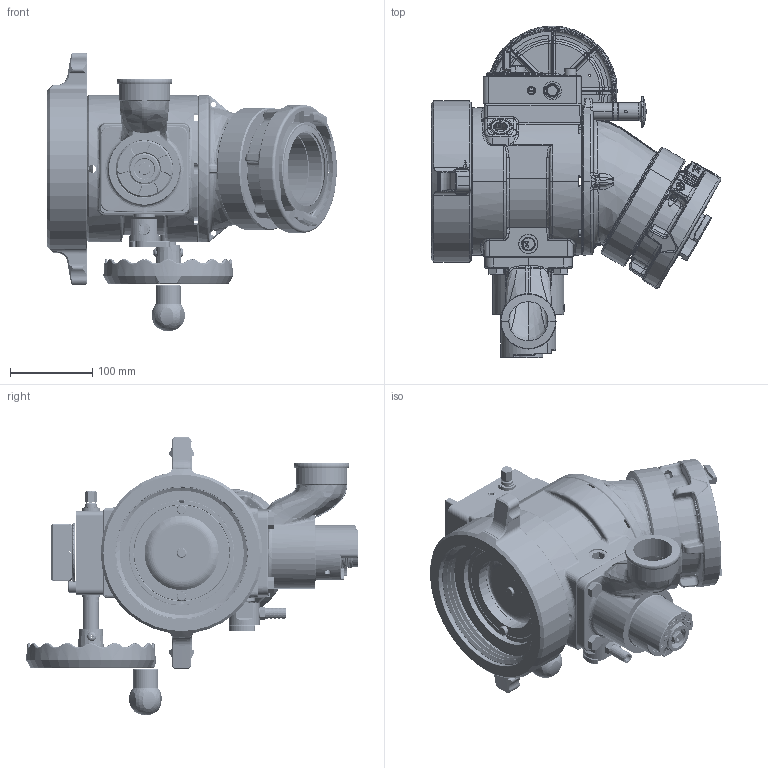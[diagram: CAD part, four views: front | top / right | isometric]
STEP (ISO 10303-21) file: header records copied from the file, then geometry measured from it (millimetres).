
FILE_DESCRIPTION (( 'STEP AP203' ), '1' );
FILE_NAME ('AB1SP-NT.STEP', '2015-02-09T20:02:24', ( '' ), ( '' ), 'SwSTEP 2.0', 'SolidWorks 2015', '' );
FILE_SCHEMA (( 'CONFIG_CONTROL_DESIGN' ));
Length unit declared in the file: inch
Products named in the file (1): AB1SP-NT
Bounding box: 352.97 x 404.47 x 339.79 mm (x, y, z)
Surface area: 656221.9 mm2 (no closed solid volume)
Topology: 0 solids, 374 shells, 2736 faces, 18448 edges, 15827 vertices
Faces by surface type: plane 943, bspline 667, cylinder 568, cone 300, torus 224, sphere 34
Entity records: 281796 total; most frequent: CARTESIAN_POINT 159828, ORIENTED_EDGE 23649, DIRECTION 19266, EDGE_CURVE 18406, VERTEX_POINT 15822, LINE 9752, VECTOR 9752, B_SPLINE_CURVE_WITH_KNOTS 5489
